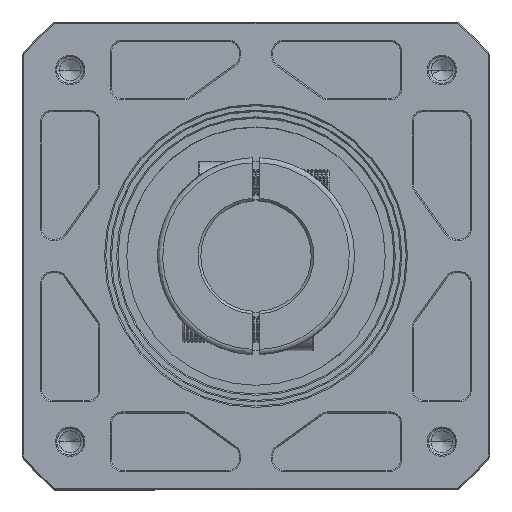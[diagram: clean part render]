
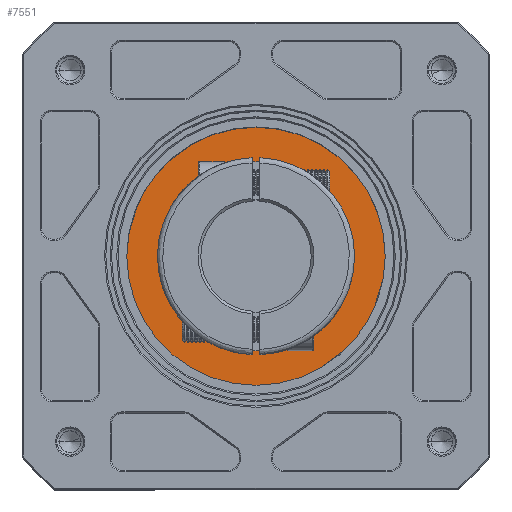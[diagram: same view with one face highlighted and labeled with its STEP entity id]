
A CAD part, top view. The second image highlights one B-rep face of the part: STEP entity #7551.
In plain terms, the highlighted planar face has unit normal (0, 0, 1).
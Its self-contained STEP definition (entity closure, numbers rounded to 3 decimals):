
#2541 = ORIENTED_EDGE ( 'NONE', *, *, #46969, .T. ) ;
#3628 = CARTESIAN_POINT ( 'NONE',  ( -262.693, 21.287, -91.628 ) ) ;
#4950 = CIRCLE ( 'NONE', #112793, 81.5 ) ;
#5531 = PLANE ( 'NONE',  #132792 ) ;
#7551 = ADVANCED_FACE ( 'NONE', ( #87172 ), #5531, .T. ) ;
#9442 = DIRECTION ( 'NONE',  ( -1., 0., 0. ) ) ;
#11454 = DIRECTION ( 'NONE',  ( 1., 0., 0. ) ) ;
#12361 = CARTESIAN_POINT ( 'NONE',  ( -220.952, -48.713, -91.628 ) ) ;
#12534 = DIRECTION ( 'NONE',  ( 0., 0., 1. ) ) ;
#13317 = DIRECTION ( 'NONE',  ( -1., 0., 0. ) ) ;
#16732 = VERTEX_POINT ( 'NONE', #129736 ) ;
#18680 = VERTEX_POINT ( 'NONE', #97691 ) ;
#19592 = CARTESIAN_POINT ( 'NONE',  ( -262.693, 21.287, -91.628 ) ) ;
#24435 = DIRECTION ( 'NONE',  ( 0., 0., 1. ) ) ;
#25533 = VECTOR ( 'NONE', #114378, 1000. ) ;
#27173 = CIRCLE ( 'NONE', #48777, 81.5 ) ;
#34302 = DIRECTION ( 'NONE',  ( 0., 1., 0. ) ) ;
#34768 = CARTESIAN_POINT ( 'NONE',  ( -192.693, 63.027, -91.628 ) ) ;
#38188 = VECTOR ( 'NONE', #34302, 1000. ) ;
#38766 = EDGE_CURVE ( 'NONE', #45949, #114911, #27173, .T. ) ;
#45949 = VERTEX_POINT ( 'NONE', #107673 ) ;
#46969 = EDGE_CURVE ( 'NONE', #55299, #16732, #120834, .T. ) ;
#48622 = CARTESIAN_POINT ( 'NONE',  ( -332.693, 21.287, -91.628 ) ) ;
#48777 = AXIS2_PLACEMENT_3D ( 'NONE', #77519, #12534, #98771 ) ;
#51030 = ORIENTED_EDGE ( 'NONE', *, *, #71319, .T. ) ;
#51936 = LINE ( 'NONE', #104215, #25533 ) ;
#55084 = LINE ( 'NONE', #48622, #112949 ) ;
#55299 = VERTEX_POINT ( 'NONE', #34768 ) ;
#66768 = DIRECTION ( 'NONE',  ( 0., 0., 1. ) ) ;
#67652 = EDGE_CURVE ( 'NONE', #82317, #55299, #97618, .T. ) ;
#68590 = VERTEX_POINT ( 'NONE', #12361 ) ;
#69588 = DIRECTION ( 'NONE',  ( 0., 0., 1. ) ) ;
#71319 = EDGE_CURVE ( 'NONE', #114911, #18680, #55084, .T. ) ;
#75475 = EDGE_CURVE ( 'NONE', #76063, #68590, #51936, .T. ) ;
#76063 = VERTEX_POINT ( 'NONE', #101392 ) ;
#77108 = AXIS2_PLACEMENT_3D ( 'NONE', #3628, #66768, #13317 ) ;
#77519 = CARTESIAN_POINT ( 'NONE',  ( -262.693, 21.287, -91.628 ) ) ;
#78093 = VECTOR ( 'NONE', #106692, 1000. ) ;
#79059 = EDGE_CURVE ( 'NONE', #18680, #76063, #4950, .T. ) ;
#82317 = VERTEX_POINT ( 'NONE', #130683 ) ;
#82750 = AXIS2_PLACEMENT_3D ( 'NONE', #87608, #24435, #98217 ) ;
#87172 = FACE_OUTER_BOUND ( 'NONE', #92048, .T. ) ;
#87608 = CARTESIAN_POINT ( 'NONE',  ( -262.693, 21.287, -91.628 ) ) ;
#90142 = DIRECTION ( 'NONE',  ( 0., -1., 0. ) ) ;
#90379 = CARTESIAN_POINT ( 'NONE',  ( -262.693, 21.287, -91.628 ) ) ;
#92048 = EDGE_LOOP ( 'NONE', ( #133385, #51030, #99795, #128065, #122895, #103046, #2541, #125865 ) ) ;
#97618 = LINE ( 'NONE', #120153, #38188 ) ;
#97691 = CARTESIAN_POINT ( 'NONE',  ( -332.693, -20.453, -91.628 ) ) ;
#98217 = DIRECTION ( 'NONE',  ( -1., 0., 0. ) ) ;
#98771 = DIRECTION ( 'NONE',  ( 0., 1., 0. ) ) ;
#99795 = ORIENTED_EDGE ( 'NONE', *, *, #79059, .T. ) ;
#101392 = CARTESIAN_POINT ( 'NONE',  ( -304.433, -48.713, -91.628 ) ) ;
#103046 = ORIENTED_EDGE ( 'NONE', *, *, #67652, .T. ) ;
#104215 = CARTESIAN_POINT ( 'NONE',  ( -262.693, -48.713, -91.628 ) ) ;
#106692 = DIRECTION ( 'NONE',  ( -1., 0., 0. ) ) ;
#107673 = CARTESIAN_POINT ( 'NONE',  ( -304.433, 91.287, -91.628 ) ) ;
#112793 = AXIS2_PLACEMENT_3D ( 'NONE', #19592, #134533, #9442 ) ;
#112949 = VECTOR ( 'NONE', #90142, 1000. ) ;
#114375 = LINE ( 'NONE', #129321, #78093 ) ;
#114378 = DIRECTION ( 'NONE',  ( 1., 0., 0. ) ) ;
#114911 = VERTEX_POINT ( 'NONE', #128808 ) ;
#119759 = EDGE_CURVE ( 'NONE', #68590, #82317, #135068, .T. ) ;
#120153 = CARTESIAN_POINT ( 'NONE',  ( -192.693, 21.287, -91.628 ) ) ;
#120834 = CIRCLE ( 'NONE', #82750, 81.5 ) ;
#122895 = ORIENTED_EDGE ( 'NONE', *, *, #119759, .T. ) ;
#125865 = ORIENTED_EDGE ( 'NONE', *, *, #131776, .T. ) ;
#128065 = ORIENTED_EDGE ( 'NONE', *, *, #75475, .T. ) ;
#128808 = CARTESIAN_POINT ( 'NONE',  ( -332.693, 63.027, -91.628 ) ) ;
#129321 = CARTESIAN_POINT ( 'NONE',  ( -262.693, 91.287, -91.628 ) ) ;
#129736 = CARTESIAN_POINT ( 'NONE',  ( -220.952, 91.287, -91.628 ) ) ;
#130683 = CARTESIAN_POINT ( 'NONE',  ( -192.693, -20.453, -91.628 ) ) ;
#131776 = EDGE_CURVE ( 'NONE', #16732, #45949, #114375, .T. ) ;
#132792 = AXIS2_PLACEMENT_3D ( 'NONE', #90379, #69588, #11454 ) ;
#133385 = ORIENTED_EDGE ( 'NONE', *, *, #38766, .T. ) ;
#134533 = DIRECTION ( 'NONE',  ( 0., 0., 1. ) ) ;
#135068 = CIRCLE ( 'NONE', #77108, 81.5 ) ;
